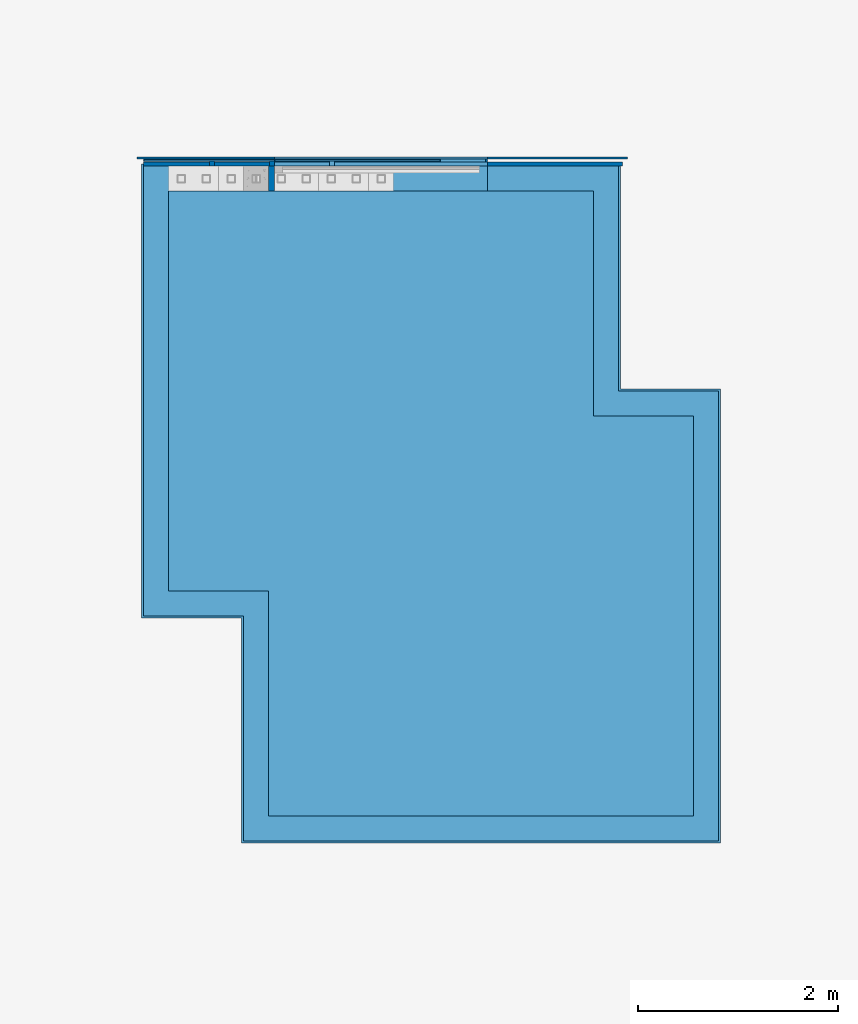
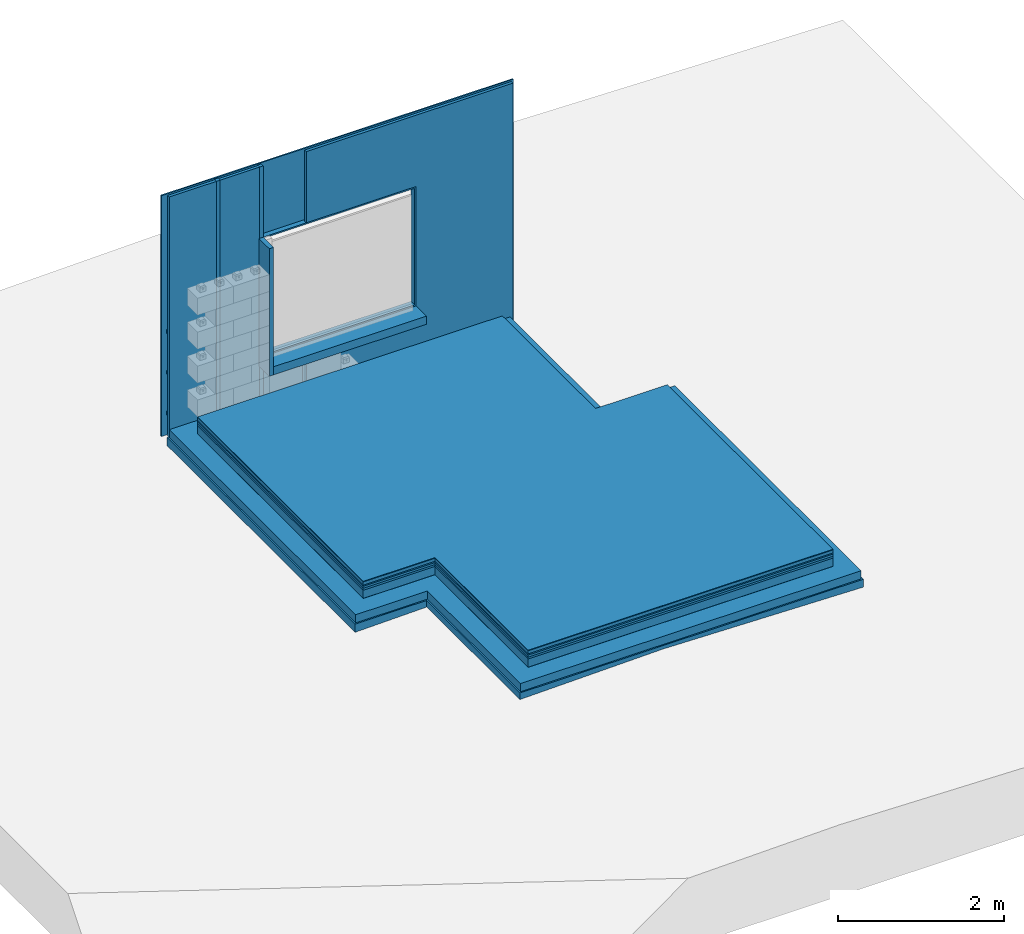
# One storey, part 1 of 3: 14 walls, 10 building element parts, 2 openings, 5 elements without a shape of their own.
"""IFC4 building model written with IfcOpenShell, lengths in centimetres."""

from ifc_helpers import new_model, entity, si_unit, converted_unit, direction, frame, origin, place, context, subcontext, project, spatial, indexed_curve, outline, extrude, polygons, material, type_object, element, aggregate, save


model = new_model("IFC4")

# Units and contexts
model_context = context("Model", 3, precision=0.001, world=origin(), true_north=direction((0.0, 1.0)))
body_context = subcontext(model_context, "Body", "Model", "MODEL_VIEW")
ifc_project = project(units=[si_unit("LENGTHUNIT", "METRE", prefix="CENTI"), si_unit("AREAUNIT", "SQUARE_METRE"), si_unit("VOLUMEUNIT", "CUBIC_METRE"), converted_unit("PLANEANGLEUNIT", "DEGREE", entity("IfcPlaneAngleMeasure", 0.017453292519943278), si_unit("PLANEANGLEUNIT", "RADIAN"), dimensions=[0, 0, 0, 0, 0, 0, 0])], contexts=[model_context])

# Site, building, storey
site_placement = place(None, origin())
site = spatial("IfcSite", under=ifc_project, at=site_placement, Name="Default", CompositionType="ELEMENT")
building_placement = place(site_placement, origin())
building = spatial("IfcBuilding", under=site, at=building_placement, CompositionType="ELEMENT")
storey_placement = place(building_placement, frame((0.0, 0.0, -23.700000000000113)))
storey = spatial("IfcBuildingStorey", under=building, at=storey_placement, Name="L00__ABOVE Slab", CompositionType="ELEMENT", Elevation=-23.700000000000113)

# Walls
ifc_material_1 = material(Name="_STRUCTURE__Wood Solid")
wall_type = type_object("IfcWallType", Name="Structural Framing : wll_s__LINTEL__Triqbriq, Rectangular__wp : Wood", PredefinedType="SOLIDWALL", material=ifc_material_1)
wall_1_placement = place(storey_placement, frame((3238.0256942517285, 2563.6164159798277, 50.0), z_axis=(0.0, 0.0, 1.0), x_axis=(0.0, 1.0, 0.0)))
element("IfcWall", 1, at=wall_1_placement, inside=storey, type_object=wall_type, material=ifc_material_1, Name="Structural Framing : wll_s__LINTEL__Triqbriq, Rectangular__wp : Wood", PredefinedType="SOLIDWALL", context=body_context, shape_type="SweptSolid", body=[
    extrude(outline(indexed_curve([(-2.999999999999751, -12.499999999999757), (3.0000000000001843, -12.499999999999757), (3.0000000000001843, 12.50000000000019), (-2.999999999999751, 12.50000000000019), (-2.999999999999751, -12.499999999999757)], self_intersect=False)), frame((12.500000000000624, -3.0, 0.0), z_axis=(0.0, 0.0, 1.0), x_axis=(0.0, -1.0, 0.0)), (0.0, 0.0, 1.0), 188.00000000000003),
])
wall_2_placement = place(storey_placement, frame((3244.0256942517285, 2563.616415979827, 50.0)))
element("IfcWall", 2, at=wall_2_placement, inside=storey, type_object=wall_type, material=ifc_material_1, Name="Structural Framing : wll_s__LINTEL__Triqbriq, Rectangular__wp : Wood", PredefinedType="SOLIDWALL", context=body_context, shape_type="SweptSolid", body=[
    extrude(outline(indexed_curve([(-12.500000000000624, -106.50000000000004), (12.499999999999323, -106.50000000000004), (12.500000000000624, 106.50000000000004), (-12.499999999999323, 106.50000000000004), (-12.500000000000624, -106.50000000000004)], self_intersect=False)), frame((106.50000000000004, 12.500000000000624, 0.0), z_axis=(0.0, 0.0, 1.0), x_axis=(0.0, -1.0, 0.0)), (0.0, 0.0, 1.0), 11.999999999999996),
])
wall_3_placement = place(storey_placement, frame((0.0, 0.0, -12.0)))
element("IfcWall", 3, at=wall_3_placement, inside=storey, material=ifc_material_1, Name="Parts : Part", PredefinedType="NOTDEFINED", context=body_context, shape_type="SweptSolid", body=[
    extrude(outline(indexed_curve([(-2.500000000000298, -2.4999999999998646), (2.4999999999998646, -2.4999999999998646), (2.4999999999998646, 2.500000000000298), (-2.500000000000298, 2.500000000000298), (-2.500000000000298, -2.4999999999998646)], self_intersect=False)), frame((3241.525694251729, 2591.116415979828, 0.0), z_axis=(0.0, 0.0, 1.0), x_axis=(0.0, -1.0, 0.0)), (0.0, 0.0, 1.0), 354.99999999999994),
])
wall_4_placement = place(storey_placement, frame((0.0, 0.0, -12.0)))
element("IfcWall", 4, at=wall_4_placement, inside=storey, material=ifc_material_1, Name="Parts : Part", PredefinedType="NOTDEFINED", context=body_context, shape_type="SweptSolid", body=[
    extrude(outline(indexed_curve([(-2.4999999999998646, -2.4999999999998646), (2.500000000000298, -2.4999999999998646), (2.500000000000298, 2.500000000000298), (-2.4999999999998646, 2.500000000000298), (-2.4999999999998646, -2.4999999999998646)], self_intersect=False)), frame((3181.5256942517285, 2591.11641597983, 0.0), z_axis=(0.0, 0.0, 1.0), x_axis=(0.0, -1.0, 0.0)), (0.0, 0.0, 1.0), 354.99999999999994),
])
ifc_material_2 = material(Name="_FCD LAYERS__Insulation__Wood-fiber__Gutex Multitherm", Category="Unassigned")
wall_5_placement = place(storey_placement, frame((0.0, 0.0, -12.0)))
element("IfcWall", 5, at=wall_5_placement, inside=storey, material=ifc_material_2, Name="Parts : Part", PredefinedType="NOTDEFINED", context=body_context, shape_type="SweptSolid", body=[
    extrude(outline(indexed_curve([(-2.0000000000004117, -33.000000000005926), (1.9999999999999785, -33.000000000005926), (2.0000000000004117, 33.00000000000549), (-1.9999999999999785, 33.00000000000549), (-2.0000000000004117, -33.000000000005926)], self_intersect=False)), frame((3146.025694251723, 2590.6164159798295, 0.0), z_axis=(0.0, 0.0, 1.0), x_axis=(0.0, -1.0, 0.0)), (0.0, 0.0, 1.0), 355.0),
])

# Wall, opening
ifc_material_3 = material(Name="_FCD VENT FINISH__Wood__Thermory C34", Category="Unassigned")
wall_6_placement = place(storey_placement, frame((0.0, 0.0, -12.0)))
wall_6 = element("IfcWall", 6, at=wall_6_placement, inside=storey, material=ifc_material_3, Name="Parts : Part", PredefinedType="NOTDEFINED", context=body_context, shape_type="SweptSolid", body=[
    extrude(outline(indexed_curve([(-1.000000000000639, -245.50000000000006), (0.9999999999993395, -245.50000000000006), (1.000000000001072, 245.50000000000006), (-0.9999999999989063, 245.50000000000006), (-1.000000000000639, -245.50000000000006)], self_intersect=False)), frame((3351.525694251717, 2596.6164159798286, 0.0), z_axis=(0.0, 0.0, 1.0), x_axis=(0.0, -1.0, 0.0)), (0.0, 0.0, 1.0), 355.0),
])
opening_1_placement = place(storey_placement, frame((0.0, 0.0, -12.0)))
element("IfcOpeningElement", 7, at=opening_1_placement, cuts=wall_6, Name="Parts : Part:1", PredefinedType="OPENING", context=body_context, shape_type="SweptSolid", body=[
    extrude(outline(indexed_curve([(-106.50000000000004, -88.00000000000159), (106.50000000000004, -88.00000000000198), (106.50000000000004, 88.00000000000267), (-106.50000000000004, 88.00000000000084), (-106.50000000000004, -88.00000000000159)], self_intersect=False)), frame((3350.525694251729, 2597.6164159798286, 162.0), z_axis=(0.0, -1.0, 0.0), x_axis=(1.0, 0.0, 0.0)), (0.0, 0.0, 1.0), 1.9999999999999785),
])

# Wall
wall_7_placement = place(storey_placement, frame((0.0, 0.0, -12.0)))
element("IfcWall", 8, at=wall_7_placement, inside=storey, material=ifc_material_2, Name="Parts : Part", PredefinedType="NOTDEFINED", context=body_context, shape_type="Tessellation", body=[
    polygons([(3588.025694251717, 2588.6164159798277, 355.0), (3592.025694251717, 2588.6164159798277, 355.0), (3592.025694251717, 2592.616415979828, 355.0), (3304.0256942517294, 2592.616415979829, 355.0), (3304.0256942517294, 2588.6164159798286, 355.0), (3457.025694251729, 2588.616415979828, 74.00000000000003), (3457.025694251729, 2588.616415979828, 250.00000000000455), (3457.025694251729, 2592.6164159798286, 250.0000000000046), (3457.025694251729, 2592.6164159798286, 74.00000000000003), (3304.0256942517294, 2588.6164159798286, 250.00000000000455), (3304.0256942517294, 2592.616415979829, 250.0000000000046), (3592.025694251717, 2588.6164159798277, 0.0), (3592.025694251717, 2592.616415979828, 0.0), (3304.0256942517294, 2588.6164159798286, 0.0), (3304.0256942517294, 2588.6164159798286, 74.00000000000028), (3304.0256942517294, 2592.616415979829, 74.00000000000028), (3304.0256942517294, 2592.616415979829, 0.0), (3588.025694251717, 2588.6164159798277, 0.0)], [[[1, 2, 3, 4, 5]], [[6, 7, 8, 9]], [[7, 10, 11, 8]], [[2, 12, 13, 3]], [[10, 5, 4, 11]], [[14, 15, 16, 17]], [[12, 2, 1, 5, 10, 7, 6, 15, 14, 18]], [[13, 17, 16, 9, 8, 11, 4, 3]], [[15, 6, 9, 16]], [[18, 14, 17, 13, 12]]], closed=True),
])

# Wall, opening
wall_8_placement = place(storey_placement, frame((0.0, 0.0, 62.0)))
wall_8 = element("IfcWall", 9, at=wall_8_placement, inside=storey, material=ifc_material_1, Name="Parts : Part", PredefinedType="NOTDEFINED", context=body_context, shape_type="SweptSolid", body=[
    extrude(outline(indexed_curve([(-4.500000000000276, -106.50000000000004), (4.499999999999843, -106.50000000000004), (4.499999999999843, 106.50000000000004), (-4.500000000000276, 106.50000000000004), (-4.500000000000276, -106.50000000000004)], self_intersect=False)), frame((3350.525694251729, 2593.1164159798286, 0.0), z_axis=(0.0, 0.0, 1.0), x_axis=(0.0, 1.0, 0.0)), (0.0, 0.0, 1.0), 176.0000000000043),
])
opening_2_placement = place(storey_placement, frame((0.0, 0.0, 62.0)))
element("IfcOpeningElement", 10, at=opening_2_placement, cuts=wall_8, Name="Parts : Part:1", PredefinedType="OPENING", context=body_context, shape_type="SweptSolid", body=[
    extrude(outline(indexed_curve([(64.87499999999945, -104.50000000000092), (78.87500000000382, -104.50000000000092), (78.87500000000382, 104.4999999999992), (64.87499999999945, 104.4999999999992), (59.874999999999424, 104.4999999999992), (4.87499999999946, 104.4999999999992), (-0.1250000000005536, 104.4999999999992), (-55.125000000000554, 104.4999999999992), (-60.125000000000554, 104.4999999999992), (-93.12500000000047, 104.4999999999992), (-93.12500000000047, -104.50000000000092), (-60.125000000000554, -104.50000000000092), (-55.125000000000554, -104.50000000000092), (-0.1250000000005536, -104.50000000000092), (4.87499999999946, -104.50000000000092), (59.874999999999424, -104.50000000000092), (64.87499999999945, -104.50000000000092)], self_intersect=False)), frame((3350.52569425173, 2597.616415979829, 80.87500000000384), z_axis=(0.0, -1.0, 0.0), x_axis=(0.0, 0.0, -1.0)), (0.0, 0.0, 1.0), 9.000000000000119),
])

# Walls
for number, where, name in (
    (11, (0.0, 0.0, 138.0), "Parts : Part"),
    (12, (0.0, 0.0, 78.0), "Parts : Part"),
):
    element("IfcWall", number, at=place(storey_placement, frame(where)), inside=storey, material=ifc_material_1, Name=name, PredefinedType="NOTDEFINED", context=body_context, shape_type="SweptSolid", body=[
        extrude(outline(indexed_curve([(-1.0000000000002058, -65.5000000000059), (0.9999999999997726, -65.5000000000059), (1.000000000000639, 65.5000000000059), (-0.9999999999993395, 65.5000000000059), (-1.0000000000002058, -65.5000000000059)], self_intersect=False)), frame((3178.525694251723, 2594.6164159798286, 0.0), z_axis=(0.0, 0.0, 1.0), x_axis=(0.0, -1.0, 0.0)), (0.0, 0.0, 1.0), 5.0),
    ])
wall_9_placement = place(storey_placement, frame((0.0, 0.0, -12.0)))
element("IfcWall", 13, at=wall_9_placement, inside=storey, material=ifc_material_2, Name="Parts : Part", PredefinedType="NOTDEFINED", context=body_context, shape_type="SweptSolid", body=[
    extrude(outline(indexed_curve([(-2.0000000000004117, -27.500000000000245), (1.9999999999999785, -27.500000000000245), (2.0000000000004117, 27.49999999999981), (-1.9999999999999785, 27.49999999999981), (-2.0000000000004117, -27.500000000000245)], self_intersect=False)), frame((3271.5256942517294, 2590.616415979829, 0.0), z_axis=(0.0, 0.0, 1.0), x_axis=(0.0, -1.0, 0.0)), (0.0, 0.0, 1.0), 74.00000000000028),
])
wall_10_placement = place(storey_placement, frame((0.0, 0.0, 18.0)))
element("IfcWall", 14, at=wall_10_placement, inside=storey, material=ifc_material_1, Name="Parts : Part", PredefinedType="NOTDEFINED", context=body_context, shape_type="SweptSolid", body=[
    extrude(outline(indexed_curve([(-1.000000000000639, -148.21192488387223), (0.9999999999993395, -148.21192488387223), (1.000000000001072, 148.21192488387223), (-0.9999999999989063, 148.21192488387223), (-1.000000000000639, -148.21192488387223)], self_intersect=False)), frame((3261.2376191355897, 2594.6164159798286, 0.0), z_axis=(0.0, 0.0, 1.0), x_axis=(0.0, -1.0, 0.0)), (0.0, 0.0, 1.0), 5.0),
])
wall_11_placement = place(storey_placement, frame((0.0, 0.0, -12.0)))
element("IfcWall", 15, at=wall_11_placement, inside=storey, material=ifc_material_1, Name="Parts : Part", PredefinedType="NOTDEFINED", context=body_context, shape_type="SweptSolid", body=[
    extrude(outline(indexed_curve([(-2.4999999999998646, -2.4999999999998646), (2.500000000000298, -2.4999999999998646), (2.500000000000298, 2.500000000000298), (-2.4999999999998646, 2.500000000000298), (-2.4999999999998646, -2.4999999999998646)], self_intersect=False)), frame((3301.525694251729, 2591.11641597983, 0.0), z_axis=(0.0, 0.0, 1.0), x_axis=(0.0, -1.0, 0.0)), (0.0, 0.0, 1.0), 74.00000000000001),
])
wall_12_placement = place(storey_placement, frame((0.0, 0.0, -12.0)))
element("IfcWall", 16, at=wall_12_placement, inside=storey, material=ifc_material_2, Name="Parts : Part", PredefinedType="NOTDEFINED", context=body_context, shape_type="SweptSolid", body=[
    extrude(outline(indexed_curve([(-1.9999999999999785, -27.500000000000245), (2.0000000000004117, -27.500000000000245), (2.0000000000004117, 27.49999999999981), (-1.9999999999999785, 27.49999999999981), (-1.9999999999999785, -27.500000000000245)], self_intersect=False)), frame((3211.525694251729, 2590.6164159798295, 0.0), z_axis=(0.0, 0.0, 1.0), x_axis=(0.0, -1.0, 0.0)), (0.0, 0.0, 1.0), 355.0),
])

# Slab, building element part
slab_type_1 = type_object("IfcSlabType", PredefinedType="FLOOR")
slab_1_placement = place(storey_placement, origin())
slab_1 = element("IfcSlab", 17, at=slab_1_placement, inside=storey, type_object=slab_type_1, PredefinedType="FLOOR")
ifc_material_4 = material(Name="_FND LAYERS__Insulation__Foam Glass__Glapor PG UMB1", Category="Unassigned")
building_element_part_1_placement = place(slab_1_placement, origin())
building_element_part_1 = element("IfcBuildingElementPart", 18, at=building_element_part_1_placement, material=ifc_material_4, Name="_FND LAYERS__Insulation__Foam Glass__Glapor PG UMB1", context=body_context, shape_type="SweptSolid", body=[
    extrude(outline(indexed_curve([(-337.5000000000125, -287.50000000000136), (112.50000000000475, -287.50000000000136), (112.50000000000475, -187.50000000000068), (337.500000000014, -187.50000000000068), (337.500000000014, 287.49999999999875), (-112.50000000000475, 287.49999999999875), (-112.50000000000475, 187.5000000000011), (-337.5000000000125, 187.5000000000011), (-337.5000000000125, -287.50000000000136)], self_intersect=False)), frame((3400.525694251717, 2251.1164159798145, -12.0), z_axis=(0.0, 0.0, 1.0), x_axis=(0.0, -1.0, 0.0)), (0.0, 0.0, 1.0), 12.0),
])
aggregate(slab_1, [building_element_part_1])

slab_type_2 = type_object("IfcSlabType", PredefinedType="FLOOR")
slab_2_placement = place(storey_placement, origin())
slab_2 = element("IfcSlab", 19, at=slab_2_placement, inside=storey, type_object=slab_type_2, PredefinedType="FLOOR")
ifc_material_5 = material(Name="_FLR LAYERS__Equalization Infill__Gravel", Category="Unassigned")
building_element_part_2_placement = place(slab_2_placement, frame((3111.0256942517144, 1911.6164159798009, -24.0)))
building_element_part_2 = element("IfcBuildingElementPart", 20, at=building_element_part_2_placement, material=ifc_material_5, Name="_FLR LAYERS__Equalization Infill__Gravel", context=body_context, shape_type="Tessellation", body=[
    polygons([(1.8189894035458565e-12, 225.00000000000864, 7.105427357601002e-15), (0.0, 679.0000000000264, 7.105427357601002e-15), (2.000000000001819, 679.0000000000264, 2.1316282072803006e-14), (2.000000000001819, 225.00000000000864, 2.1316282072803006e-14), (479.00000000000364, 679.0000000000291, 12.000000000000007), (0.0, 679.0000000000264, 12.000000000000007), (1.8189894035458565e-12, 225.00000000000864, 12.000000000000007), (100.00000000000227, 225.0000000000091, 12.000000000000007), (100.00000000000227, 2.7284841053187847e-12, 12.000000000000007), (579.0000000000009, -2.2737367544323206e-13, 12.000000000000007), (579.0000000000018, 454.00000000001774, 12.000000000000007), (479.00000000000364, 454.00000000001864, 12.000000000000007), (479.00000000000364, 679.0000000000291, 2.716156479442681), (299.2368838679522, 679.0000000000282, 6.872529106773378), (479.00000000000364, 454.00000000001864, 2.716156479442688), (579.0000000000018, 454.00000000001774, 0.40401775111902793), (579.0000000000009, -2.2737367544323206e-13, 0.40401775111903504), (100.00000000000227, 2.7284841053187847e-12, 2.265895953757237), (299.23688386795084, 1.5916157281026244e-12, 6.872529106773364), (100.00000000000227, 225.0000000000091, 2.265895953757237)], [[[1, 2, 3, 4]], [[5, 6, 7, 8, 9, 10, 11, 12]], [[6, 5, 13, 14, 3, 2]], [[5, 12, 15, 13]], [[12, 11, 16, 15]], [[11, 10, 17, 16]], [[10, 9, 18, 19, 17]], [[9, 8, 20, 18]], [[8, 7, 1, 4, 20]], [[2, 1, 7, 6]], [[14, 19, 18, 20, 4, 3]], [[19, 14, 13, 15, 16, 17]]], closed=True),
])
aggregate(slab_2, [building_element_part_2])

# Slab, building element parts
slab_type_3 = type_object("IfcSlabType", PredefinedType="FLOOR")
slab_3_placement = place(storey_placement, origin())
slab_3 = element("IfcSlab", 21, at=slab_3_placement, inside=storey, type_object=slab_type_3, PredefinedType="FLOOR")
building_element_part_3_placement = place(slab_3_placement, origin())
building_element_part_3 = element("IfcBuildingElementPart", 22, at=building_element_part_3_placement, material=ifc_material_4, Name="_FND LAYERS__Insulation__Foam Glass__Glapor PG UMB1", context=body_context, shape_type="SweptSolid", body=[
    extrude(outline(indexed_curve([(-312.50000000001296, -262.50000000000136), (87.5000000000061, -262.50000000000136), (87.5000000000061, -162.49999999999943), (312.50000000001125, -162.49999999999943), (312.50000000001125, 262.4999999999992), (-87.50000000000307, 262.4999999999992), (-87.50000000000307, 162.50000000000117), (-312.50000000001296, 162.50000000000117), (-312.50000000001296, -262.50000000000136)], self_intersect=False)), frame((3400.525694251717, 2251.1164159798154, 0.19999999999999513), z_axis=(0.0, 0.0, 1.0), x_axis=(0.0, -1.0, 0.0)), (0.0, 0.0, 1.0), 12.0),
])
ifc_material_6 = material(Name="_FLR LAYERS__Fleece__Glapor Connect", Category="Unassigned")
building_element_part_4_placement = place(slab_3_placement, origin())
building_element_part_4 = element("IfcBuildingElementPart", 23, at=building_element_part_4_placement, material=ifc_material_6, Name="_FLR LAYERS__Fleece__Glapor Connect", context=body_context, shape_type="SweptSolid", body=[
    extrude(outline(indexed_curve([(-312.50000000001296, -262.50000000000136), (87.5000000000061, -262.50000000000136), (87.5000000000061, -162.49999999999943), (312.50000000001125, -162.49999999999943), (312.50000000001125, 262.4999999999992), (-87.50000000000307, 262.4999999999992), (-87.50000000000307, 162.50000000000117), (-312.50000000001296, 162.50000000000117), (-312.50000000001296, -262.50000000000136)], self_intersect=False)), frame((3400.525694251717, 2251.1164159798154, 0.0), z_axis=(0.0, 0.0, 1.0), x_axis=(0.0, -1.0, 0.0)), (0.0, 0.0, 1.0), 0.1999999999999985),
])
aggregate(slab_3, [building_element_part_3, building_element_part_4])

slab_type_4 = type_object("IfcSlabType", PredefinedType="FLOOR")
slab_4_placement = place(storey_placement, origin())
slab_4 = element("IfcSlab", 24, at=slab_4_placement, inside=storey, type_object=slab_type_4, PredefinedType="FLOOR")
ifc_material_7 = material(Name="_FLR LAYERS__Insulation__Wood-fiber__Gutex Standard N", Category="Unassigned")
building_element_part_5_placement = place(slab_4_placement, origin())
building_element_part_5 = element("IfcBuildingElementPart", 25, at=building_element_part_5_placement, material=ifc_material_7, Name="_FLR LAYERS__Insulation__Wood-fiber__Gutex Standard N", context=body_context, shape_type="SweptSolid", body=[
    extrude(outline(indexed_curve([(-312.5000000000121, -262.50000000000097), (87.50000000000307, -262.50000000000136), (87.50000000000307, -162.49999999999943), (312.50000000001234, -162.49999999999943), (312.50000000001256, 262.4999999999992), (-87.50000000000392, 262.4999999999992), (-87.50000000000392, 162.5000000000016), (-312.5000000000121, 162.5000000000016), (-312.5000000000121, -262.50000000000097)], self_intersect=False)), frame((3400.5256942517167, 2251.116415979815, 18.0), z_axis=(0.0, 0.0, 1.0), x_axis=(0.0, -1.0, 0.0)), (0.0, 0.0, 1.0), 1.8000000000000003),
])
ifc_material_8 = material(Name="_FLR LAYERS__Insulation__Wood-fiber__Gutex Thermosafe WD", Category="Unassigned")
building_element_part_6_placement = place(slab_4_placement, origin())
building_element_part_6 = element("IfcBuildingElementPart", 26, at=building_element_part_6_placement, material=ifc_material_8, Name="_FLR LAYERS__Insulation__Wood-fiber__Gutex Thermosafe WD", context=body_context, shape_type="SweptSolid", body=[
    extrude(outline(indexed_curve([(-312.5000000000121, -262.50000000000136), (87.50000000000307, -262.50000000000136), (87.50000000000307, -162.49999999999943), (312.50000000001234, -162.49999999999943), (312.50000000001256, 262.4999999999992), (-87.50000000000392, 262.4999999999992), (-87.50000000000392, 162.5000000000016), (-312.5000000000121, 162.5000000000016), (-312.5000000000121, -262.50000000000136)], self_intersect=False)), frame((3400.5256942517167, 2251.116415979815, 15.0), z_axis=(0.0, 0.0, 1.0), x_axis=(0.0, -1.0, 0.0)), (0.0, 0.0, 1.0), 3.0),
])
ifc_material_9 = material(Name="_SL ROOF LAYERS__Decking Board__OSB 3", Category="Ceramic")
building_element_part_7_placement = place(slab_4_placement, origin())
building_element_part_7 = element("IfcBuildingElementPart", 27, at=building_element_part_7_placement, material=ifc_material_9, Name="_SL ROOF LAYERS__Decking Board__OSB 3", context=body_context, shape_type="SweptSolid", body=[
    extrude(outline(indexed_curve([(-312.5000000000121, -262.50000000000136), (87.50000000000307, -262.50000000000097), (87.50000000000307, -162.49999999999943), (312.50000000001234, -162.49999999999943), (312.50000000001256, 262.4999999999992), (-87.50000000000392, 262.4999999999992), (-87.50000000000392, 162.5000000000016), (-312.5000000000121, 162.5000000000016), (-312.5000000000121, -262.50000000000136)], self_intersect=False)), frame((3400.5256942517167, 2251.116415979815, 12.199999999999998), z_axis=(0.0, 0.0, 1.0), x_axis=(0.0, -1.0, 0.0)), (0.0, 0.0, 1.0), 2.7999999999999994),
])
aggregate(slab_4, [building_element_part_5, building_element_part_6, building_element_part_7])

slab_type_5 = type_object("IfcSlabType", Name="Floors : Floor : flr__INT COVERING__5.5cm__TriqBriq, FL.2", PredefinedType="FLOOR")
slab_5_placement = place(storey_placement, origin())
slab_5 = element("IfcSlab", 28, at=slab_5_placement, inside=storey, type_object=slab_type_5, Name="Floors : Floor : flr__INT COVERING__5.5cm__TriqBriq, FL.2", PredefinedType="FLOOR")
ifc_material_10 = material(Name="_FLR COVERING__Carpet Tiles__Tarkett", Category="Miscellaneous")
building_element_part_8_placement = place(slab_5_placement, origin())
building_element_part_8 = element("IfcBuildingElementPart", 29, at=building_element_part_8_placement, material=ifc_material_10, Name="_FLR COVERING__Carpet Tiles__Tarkett", context=body_context, shape_type="SweptSolid", body=[
    extrude(outline(indexed_curve([(-312.5000000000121, -262.50000000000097), (87.50000000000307, -262.50000000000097), (87.50000000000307, -162.49999999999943), (312.50000000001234, -162.49999999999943), (312.50000000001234, 262.4999999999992), (-87.50000000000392, 262.4999999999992), (-87.50000000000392, 162.5000000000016), (-312.5000000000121, 162.5000000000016), (-312.5000000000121, -262.50000000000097)], self_intersect=False)), frame((3400.5256942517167, 2251.116415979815, 25.099999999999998), z_axis=(0.0, 0.0, 1.0), x_axis=(0.0, -1.0, 0.0)), (0.0, 0.0, 1.0), 0.2000000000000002),
])
ifc_material_11 = material(Name="_FLR LAYERS__Fundaplan", Category="Unassigned")
building_element_part_9_placement = place(slab_5_placement, origin())
building_element_part_9 = element("IfcBuildingElementPart", 30, at=building_element_part_9_placement, material=ifc_material_11, Name="_FLR LAYERS__Fundaplan", context=body_context, shape_type="SweptSolid", body=[
    extrude(outline(indexed_curve([(-312.5000000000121, -262.50000000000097), (87.50000000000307, -262.50000000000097), (87.50000000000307, -162.49999999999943), (312.50000000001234, -162.49999999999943), (312.50000000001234, 262.4999999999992), (-87.50000000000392, 262.4999999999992), (-87.50000000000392, 162.5000000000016), (-312.5000000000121, 162.5000000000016), (-312.5000000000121, -262.50000000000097)], self_intersect=False)), frame((3400.5256942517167, 2251.116415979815, 24.299999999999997), z_axis=(0.0, 0.0, 1.0), x_axis=(0.0, -1.0, 0.0)), (0.0, 0.0, 1.0), 0.8000000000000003),
])
ifc_material_12 = material(Name="_FLR LAYERS__Screed__Dry__Litotherm LW86", Category="Unassigned")
building_element_part_10_placement = place(slab_5_placement, origin())
building_element_part_10 = element("IfcBuildingElementPart", 31, at=building_element_part_10_placement, material=ifc_material_12, Name="_FLR LAYERS__Screed__Dry__Litotherm LW86", context=body_context, shape_type="SweptSolid", body=[
    extrude(outline(indexed_curve([(-312.5000000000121, -262.50000000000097), (87.50000000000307, -262.50000000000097), (87.50000000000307, -162.49999999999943), (312.50000000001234, -162.49999999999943), (312.50000000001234, 262.4999999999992), (-87.50000000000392, 262.4999999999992), (-87.50000000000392, 162.5000000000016), (-312.5000000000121, 162.5000000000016), (-312.5000000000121, -262.50000000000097)], self_intersect=False)), frame((3400.5256942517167, 2251.116415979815, 19.8), z_axis=(0.0, 0.0, 1.0), x_axis=(0.0, -1.0, 0.0)), (0.0, 0.0, 1.0), 4.5),
])
aggregate(slab_5, [building_element_part_8, building_element_part_9, building_element_part_10])

save(model, "model.ifc")
